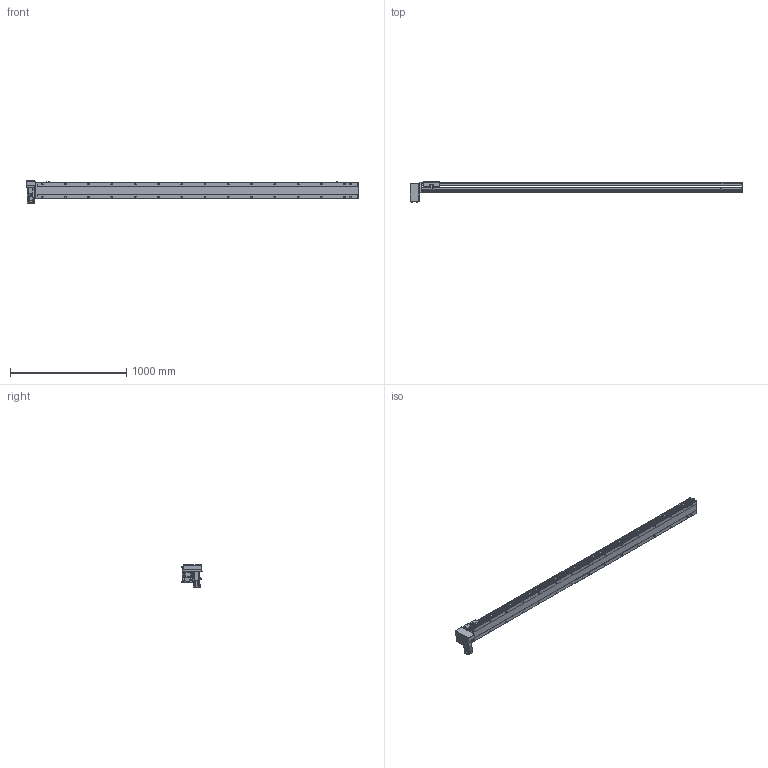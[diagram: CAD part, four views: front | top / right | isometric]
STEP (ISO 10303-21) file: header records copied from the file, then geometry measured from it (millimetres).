
FILE_DESCRIPTION(/* description */ ('STEP AP214'),/* implementation_level */ '2;1');
FILE_NAME(/* name */ 'PBS140S-P40-S2500-RD-T40-C1-N(0)',/* time_stamp */ '2022-06-09T02:48:13+02:00',/* author */ ('License CC BY-ND 4.0'),/* organization */ ('CADENAS'),/* preprocessor_version */ 'ST-DEVELOPER v18.102',/* originating_system */ 'PARTsolutions',/* authorisation */ ' ');
FILE_SCHEMA (('AUTOMOTIVE_DESIGN {1 0 10303 214 3 1 1}'));
Length unit declared in the file: millimetre
Products named in the file (7): PBS140S-P40-S2500-RD-T40-C1-N(0); PBS140S_sensor; PBS140S_plant; PBS140S_sliser; T40-p1; PBS140ST-RD_motors; PBS140S-S2500()_body
Assembly tree (8 placements, depth 2):
  PBS140S-P40-S2500-RD-T40-C1-N(0)
    PBS140S_sensor  x3
    PBS140S_plant
    PBS140S_sliser
    T40-p1
    PBS140ST-RD_motors
    PBS140S-S2500()_body
Bounding box: 2854 x 172.5 x 189.7 mm (x, y, z)
Volume: 13868372.1 mm3; surface area: 2337522.8 mm2
Topology: 8 solids, 8 shells, 1211 faces, 3191 edges, 2087 vertices
Faces by surface type: plane 744, cylinder 401, cone 56, sphere 8, torus 2
Full cylindrical faces by diameter (mm): 3.242 x4, 4 x2, 4.134 x4, 4.4 x8, 4.5 x2, 4.8 x4, 4.917 x38, 5.5 x7, 6 x2, 7 x32, 7.5 x8, 8 x12, 8.5 x4, 10.5 x30, 14 x1, 30 x2, 50 x2
Entity records: 34702 total; most frequent: CARTESIAN_POINT 6600, DIRECTION 5838, ORIENTED_EDGE 5482, EDGE_CURVE 2741, AXIS2_PLACEMENT_3D 2069, VERTEX_POINT 1921, LINE 1700, VECTOR 1700
